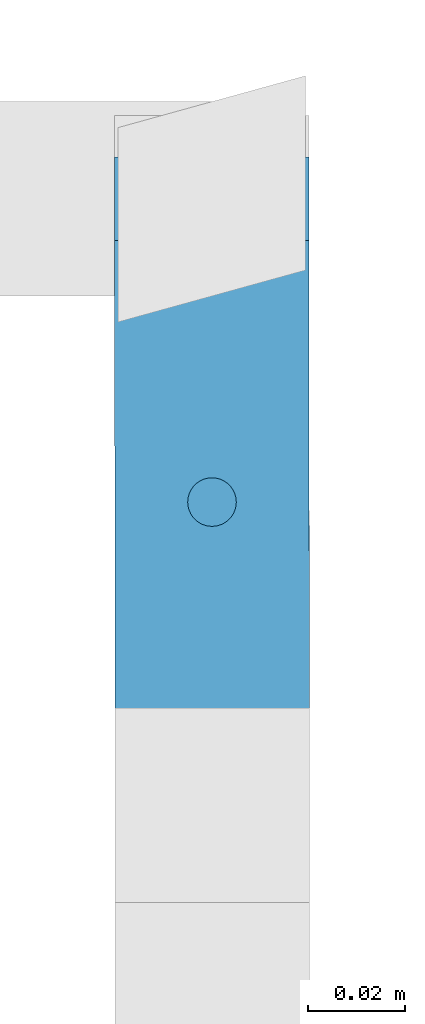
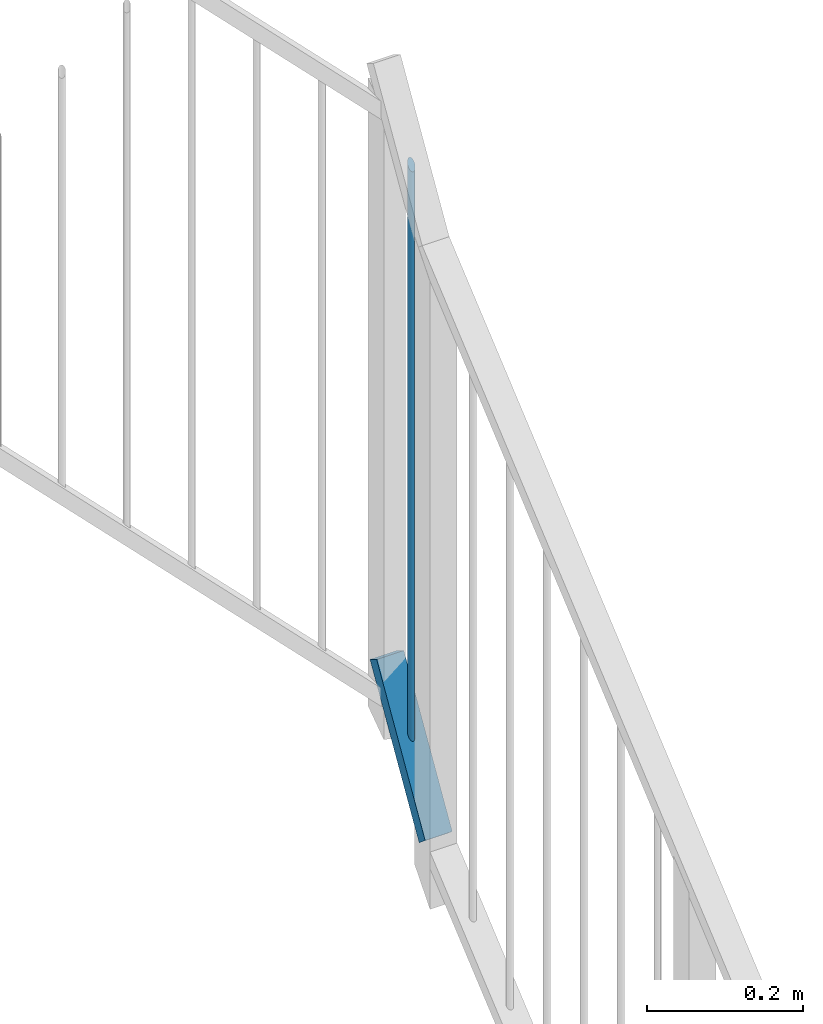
# One storey, part 68 of 135: 2 members, 1 element without a shape of its own.
"""IFC2X3 building model written with IfcOpenShell, lengths in millimetres."""

from ifc_helpers import new_model, entity, si_unit, converted_unit, derived_unit, money_unit, direction, frame, origin_with_axes, place, context, subcontext, project, spatial, faceted_brep, material, type_object, element, aggregate, save


model = new_model("IFC2X3")

# Units and contexts
model_context = context("Model", 3, precision=0.01, world=origin_with_axes(), true_north=direction((0.0, 1.0)))
body_context = subcontext(model_context, "Body", "Model", "MODEL_VIEW")
ifc_project = project(units=[si_unit("LENGTHUNIT", "METRE", prefix="MILLI"), si_unit("AREAUNIT", "SQUARE_METRE"), si_unit("VOLUMEUNIT", "CUBIC_METRE"), converted_unit("PLANEANGLEUNIT", "DEGREE", entity("IfcPlaneAngleMeasure", 0.0174532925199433), si_unit("PLANEANGLEUNIT", "RADIAN"), dimensions=[0, 0, 0, 0, 0, 0, 0]), money_unit("EUR"), converted_unit("TIMEUNIT", "Year", entity("IfcTimeMeasure", 31557600.0), si_unit("TIMEUNIT", "SECOND"), dimensions=[0, 0, 1, 0, 0, 0, 0]), si_unit("MASSUNIT", "GRAM", prefix="KILO"), si_unit("THERMODYNAMICTEMPERATUREUNIT", "DEGREE_CELSIUS"), si_unit("LUMINOUSINTENSITYUNIT", "LUMEN"), si_unit("ENERGYUNIT", "JOULE", prefix="MEGA"), derived_unit("THERMALCONDUCTANCEUNIT", [(si_unit("POWERUNIT", "WATT"), 1), (si_unit("LENGTHUNIT", "METRE"), -1), (si_unit("THERMODYNAMICTEMPERATUREUNIT", "KELVIN"), -1)]), derived_unit("SPECIFICHEATCAPACITYUNIT", [(si_unit("ENERGYUNIT", "JOULE"), 1), (si_unit("MASSUNIT", "GRAM", prefix="KILO"), -1), (si_unit("THERMODYNAMICTEMPERATUREUNIT", "KELVIN"), -1)]), derived_unit("MASSDENSITYUNIT", [(si_unit("MASSUNIT", "GRAM", prefix="KILO"), 1), (si_unit("VOLUMEUNIT", "CUBIC_METRE"), -1)])], contexts=[model_context])

# Site, building, storey
site_placement = place(None, origin_with_axes())
site = spatial("IfcSite", under=ifc_project, at=site_placement, Name="Site", CompositionType="ELEMENT")
building_placement = place(site_placement, origin_with_axes())
building = spatial("IfcBuilding", under=site, at=building_placement, Name="Naam gebouw", CompositionType="ELEMENT")
storey_placement = place(building_placement, origin_with_axes())
storey = spatial("IfcBuildingStorey", under=building, at=storey_placement, Name="Begane grond N", CompositionType="ELEMENT", Elevation=0.0)

# Railing, members
railing_type = type_object("IfcRailingType", Name="Railing Type", PredefinedType="NOTDEFINED")
railing_placement = place(storey_placement, frame((799.9999999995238, 21575.82979156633, 4340.731848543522), z_axis=(0.0, 0.0, 1.0), x_axis=(1.0, 0.0, 0.0)))
railing = element("IfcRailing", 1, at=railing_placement, inside=storey, type_object=railing_type, Name="_Reling-x", PredefinedType="NOTDEFINED")
ifc_material = material(Name="Metaal - Staal C")
member_type_1 = type_object("IfcMemberType", Name="IfcMember", PredefinedType="USERDEFINED")
member_1_placement = place(railing_placement, frame((-124.9934323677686, 1386.92931986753, 1166.381155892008), z_axis=(0.0, 0.0, 1.0), x_axis=(1.0, 0.0, 0.0)))
member_1 = element("IfcMember", 2, at=member_1_placement, type_object=member_type_1, material=ifc_material, Name="_Regel-x", context=body_context, shape_type="Brep", body=[
    faceted_brep([(20.01150772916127, -70.0848204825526, 28.9229114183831), (20.01041632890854, -54.62838529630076, 15.79844813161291), (19.98752853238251, 70.94615069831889, 225.9835815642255), (-19.98849222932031, -70.08764493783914, 28.9229114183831), (-19.98958362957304, -54.63120975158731, 15.79844813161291), (-20.01247084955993, 70.93911901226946, 225.9835815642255), (19.99054674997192, 53.77691122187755, 236.2411254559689), (-20.00945263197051, 53.76987953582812, 236.2411254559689)], [[[0, 1, 2]], [[0, 3, 4, 1]], [[1, 5, 2]], [[0, 2, 6]], [[3, 0, 6]], [[4, 3, 7]], [[1, 4, 5]], [[6, 2, 5, 7]], [[3, 6, 7]], [[4, 7, 5]]]),
])
member_type_2 = type_object("IfcMemberType", Name="IfcMember", PredefinedType="MEMBER")
member_2_placement = place(railing_placement, frame((-124.9934323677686, 1386.92931986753, 1293.117672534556), z_axis=(0.0, 0.0, 1.0), x_axis=(1.0, 0.0, 0.0)))
member_2 = element("IfcMember", 3, at=member_2_placement, type_object=member_type_2, material=ifc_material, Name="_Spijlen-x", ObjectType="MEMBER", context=body_context, shape_type="Brep", body=[
    faceted_brep([(0.0008789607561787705, -4.999999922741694, -8.36907934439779), (0.8691064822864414, -4.923886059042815, -8.241934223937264), (0.8691064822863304, -4.923886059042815, 899.2580657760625), (0.0008789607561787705, -4.999999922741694, 899.1309206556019), (-0.8673752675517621, -4.924191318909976, -8.241934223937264), (-1.709274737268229, -4.698763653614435, -7.864362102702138), (-2.499238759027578, -4.330566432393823, -7.247835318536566), (-3.213264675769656, -3.830787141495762, -6.411086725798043), (-3.829657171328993, -3.214611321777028, -5.379540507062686), (-4.329687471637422, -2.500761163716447, -4.184539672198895), (-4.698162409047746, -1.710926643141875, -2.862393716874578), (-4.923886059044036, -0.8691064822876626, -1.453275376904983), (-4.999999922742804, -0.0008789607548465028, 0.0), (-4.924191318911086, 0.8673752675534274, 1.453275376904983), (-4.698763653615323, 1.70927473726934, 2.862393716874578), (-4.330566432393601, 2.499238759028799, 4.184539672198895), (-3.830787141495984, 3.213264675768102, 5.379540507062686), (-3.214611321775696, 3.829657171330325, 6.411086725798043), (-2.500761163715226, 4.329687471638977, 7.247835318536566), (-1.710926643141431, 4.698162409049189, 7.864362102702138), (-0.8691064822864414, 4.923886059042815, 8.241934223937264), (-0.0008789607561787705, 4.999999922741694, 8.36907934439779), (0.8673752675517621, 4.924191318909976, 8.241934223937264), (1.709274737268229, 4.698763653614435, 7.864362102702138), (2.499238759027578, 4.330566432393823, 7.247835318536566), (3.213264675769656, 3.830787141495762, 6.411086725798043), (3.829657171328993, 3.214611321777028, 5.379540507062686), (4.329687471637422, 2.500761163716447, 4.184539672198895), (4.698162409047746, 1.710926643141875, 2.862393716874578), (4.923886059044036, 0.8691064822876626, 1.453275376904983), (4.999999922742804, 0.0008789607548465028, 0.0), (4.924191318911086, -0.8673752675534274, -1.453275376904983), (4.698763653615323, -1.70927473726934, -2.862393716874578), (4.330566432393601, -2.499238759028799, -4.184539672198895), (3.830787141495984, -3.213264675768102, -5.379540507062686), (3.214611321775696, -3.829657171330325, -6.411086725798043), (2.500761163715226, -4.329687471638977, -7.247835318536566), (1.710926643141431, -4.698162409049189, -7.864362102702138), (1.710926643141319, -4.698162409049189, 899.6356378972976), (2.500761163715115, -4.329687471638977, 900.2521646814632), (3.214611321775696, -3.829657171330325, 901.0889132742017), (3.830787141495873, -3.213264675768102, 902.120459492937), (4.33056643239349, -2.499238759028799, 903.3154603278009), (4.698763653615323, -1.70927473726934, 904.6376062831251), (4.924191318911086, -0.8673752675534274, 906.0467246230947), (4.999999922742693, 0.0008789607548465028, 907.4999999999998), (4.923886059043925, 0.8691064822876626, 908.9532753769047), (4.698162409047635, 1.710926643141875, 910.3623937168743), (4.329687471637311, 2.500761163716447, 911.6845396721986), (3.829657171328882, 3.214611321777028, 912.8795405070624), (3.213264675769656, 3.830787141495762, 913.9110867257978), (2.499238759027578, 4.330566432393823, 914.7478353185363), (1.709274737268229, 4.698763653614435, 915.3643621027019), (0.8673752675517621, 4.924191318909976, 915.741934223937), (-0.0008789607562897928, 4.999999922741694, 915.8690793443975), (-0.8691064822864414, 4.923886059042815, 915.741934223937), (-1.710926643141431, 4.698162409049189, 915.3643621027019), (-2.500761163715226, 4.329687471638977, 914.7478353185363), (-3.214611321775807, 3.829657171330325, 913.9110867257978), (-3.830787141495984, 3.213264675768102, 912.8795405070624), (-4.330566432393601, 2.499238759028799, 911.6845396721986), (-4.698763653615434, 1.70927473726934, 910.3623937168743), (-4.924191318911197, 0.8673752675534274, 908.9532753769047), (-4.999999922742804, -0.0008789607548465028, 907.4999999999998), (-4.923886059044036, -0.8691064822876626, 906.0467246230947), (-4.698162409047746, -1.710926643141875, 904.6376062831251), (-4.329687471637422, -2.500761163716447, 903.3154603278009), (-3.829657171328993, -3.214611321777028, 902.120459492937), (-3.213264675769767, -3.830787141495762, 901.0889132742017), (-2.499238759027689, -4.330566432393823, 900.2521646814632), (-1.70927473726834, -4.698763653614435, 899.6356378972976), (-0.8673752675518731, -4.924191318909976, 899.2580657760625)], [[[0, 1, 2, 3]], [[0, 4, 5, 6, 7, 8, 9, 10, 11, 12, 13, 14, 15, 16, 17, 18, 19, 20, 21, 22, 23, 24, 25, 26, 27, 28, 29, 30, 31, 32, 33, 34, 35, 36, 37, 1]], [[1, 37, 38, 2]], [[3, 2, 38, 39, 40, 41, 42, 43, 44, 45, 46, 47, 48, 49, 50, 51, 52, 53, 54, 55, 56, 57, 58, 59, 60, 61, 62, 63, 64, 65, 66, 67, 68, 69, 70, 71]], [[4, 0, 3, 71]], [[5, 4, 71, 70]], [[6, 5, 70, 69]], [[7, 6, 69, 68]], [[8, 7, 68, 67]], [[9, 8, 67, 66]], [[10, 9, 66, 65]], [[11, 10, 65, 64]], [[12, 11, 64, 63]], [[13, 12, 63, 62]], [[14, 13, 62, 61]], [[15, 14, 61, 60]], [[16, 15, 60, 59]], [[17, 16, 59, 58]], [[18, 17, 58, 57]], [[19, 18, 57, 56]], [[20, 19, 56, 55]], [[21, 20, 55, 54]], [[22, 21, 54, 53]], [[23, 22, 53, 52]], [[24, 23, 52, 51]], [[25, 24, 51, 50]], [[26, 25, 50, 49]], [[27, 26, 49, 48]], [[28, 27, 48, 47]], [[29, 28, 47, 46]], [[30, 29, 46, 45]], [[31, 30, 45, 44]], [[32, 31, 44, 43]], [[33, 32, 43, 42]], [[34, 33, 42, 41]], [[35, 34, 41, 40]], [[36, 35, 40, 39]], [[37, 36, 39, 38]]]),
])
aggregate(railing, [member_2, member_1])

save(model, "model.ifc")
